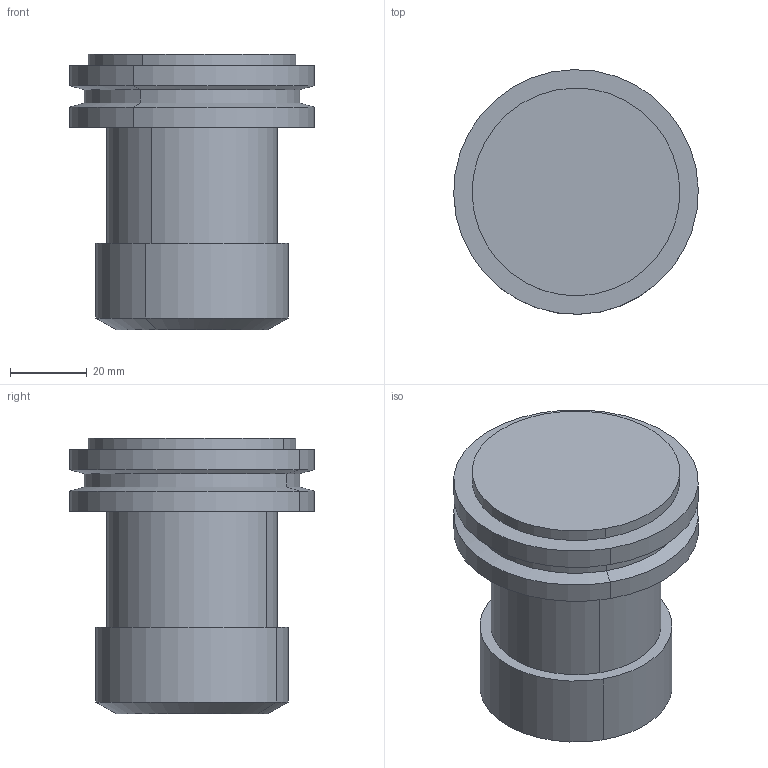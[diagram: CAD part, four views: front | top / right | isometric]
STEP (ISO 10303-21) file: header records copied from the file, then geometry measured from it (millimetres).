
FILE_DESCRIPTION(('CATIA V5 STEP Exchange'),'2;1');
FILE_NAME('\\ensam\ANGERS\Pedagogie\M2P\ENMA\Ressources\CATIA\Manufacturing\Tools\mandrin pince D50.stp','2017-11-15T16:26:39+00:00',('none'),('none'),'Version 5-6 Release 2012','CATIA V5 STEP AP203','none');
FILE_SCHEMA(('CONFIG_CONTROL_DESIGN'));
Length unit declared in the file: millimetre
Products named in the file (1): mandrin pince D50
Bounding box: 63.58 x 63.58 x 71.7 mm (x, y, z)
Volume: 143713.2 mm3; surface area: 19250.6 mm2
Topology: 1 solids, 1 shells, 23 faces, 44 edges, 26 vertices
Faces by surface type: cylinder 12, cone 6, plane 5
Entity records: 553 total; most frequent: ORIENTED_EDGE 88, CARTESIAN_POINT 85, DIRECTION 72, EDGE_CURVE 44, AXIS2_PLACEMENT_3D 41, CIRCLE 26, EDGE_LOOP 26, VERTEX_POINT 26
